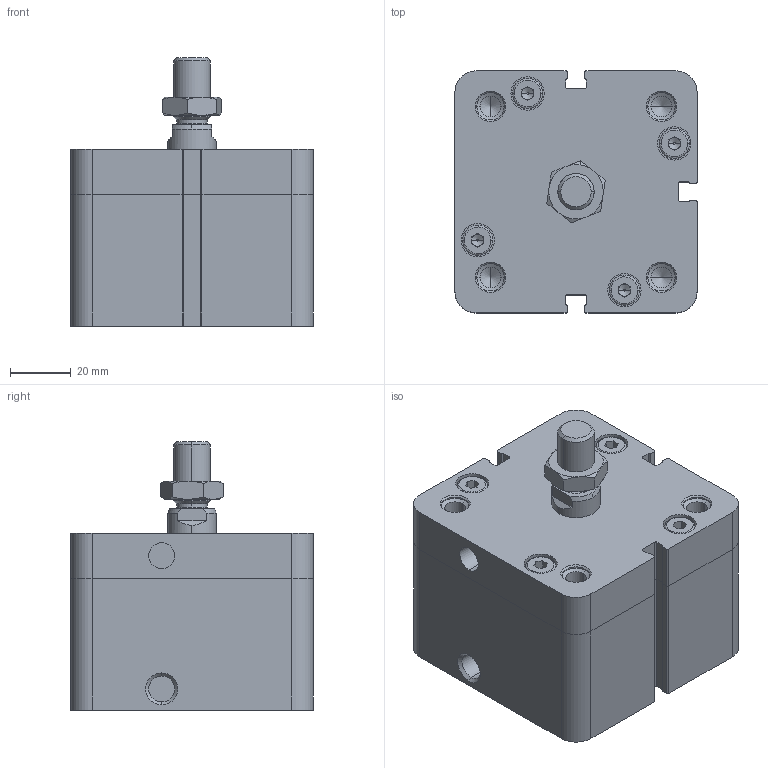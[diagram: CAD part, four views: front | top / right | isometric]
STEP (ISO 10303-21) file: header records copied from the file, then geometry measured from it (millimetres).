
FILE_DESCRIPTION (( 'STEP AP214' ), '1' );
FILE_NAME ('WINC-063-0010-ML (MDMY).STEP', '2017-12-22T09:36:33', ( 'Hidtek' ), ( '' ), 'SwSTEP 2.0', 'SolidWorks 2016', '' );
FILE_SCHEMA (( 'AUTOMOTIVE_DESIGN' ));
Length unit declared in the file: millimetre
Products named in the file (4): Group2^WINC-063-0010-ML (MDMY); Group3^WINC-063-0010-ML (MDMY); Group1^WINC-063-0010-ML (MDMY); WINC-063-0010-ML (MDMY)
Assembly tree (3 placements, depth 2):
  WINC-063-0010-ML (MDMY)
    Group1^WINC-063-0010-ML (MDMY)
    Group2^WINC-063-0010-ML (MDMY)
    Group3^WINC-063-0010-ML (MDMY)
Bounding box: 80 x 80 x 88.6 mm (x, y, z)
Volume: 329954.9 mm3; surface area: 68046.1 mm2
Topology: 8 solids, 8 shells, 435 faces, 1087 edges, 679 vertices
Faces by surface type: plane 223, cylinder 116, cone 74, bspline 22
Entity records: 14666 total; most frequent: CARTESIAN_POINT 2943, DIRECTION 2160, ORIENTED_EDGE 2142, EDGE_CURVE 1071, AXIS2_PLACEMENT_3D 736, VECTOR 688, LINE 688, VERTEX_POINT 679
